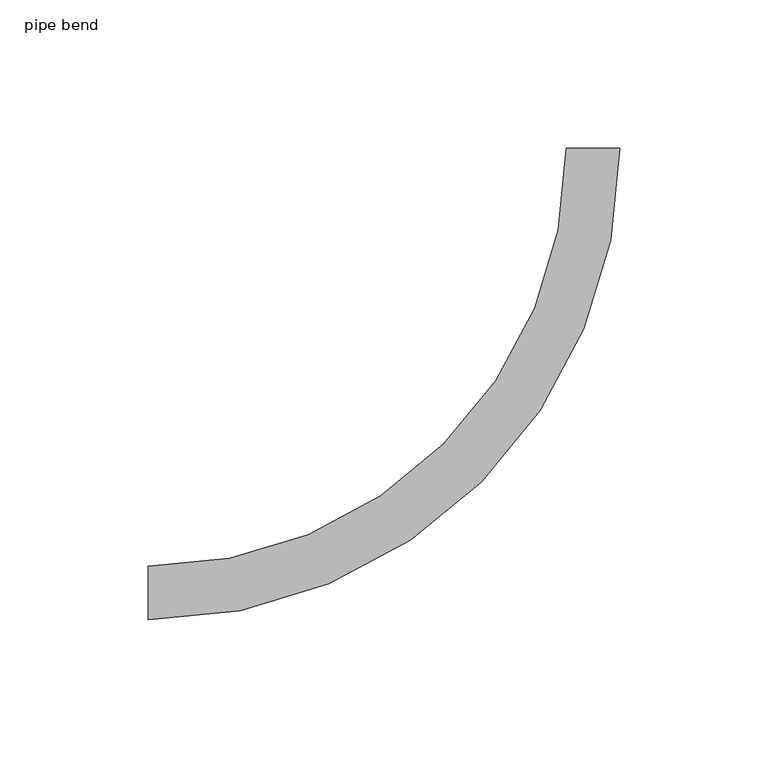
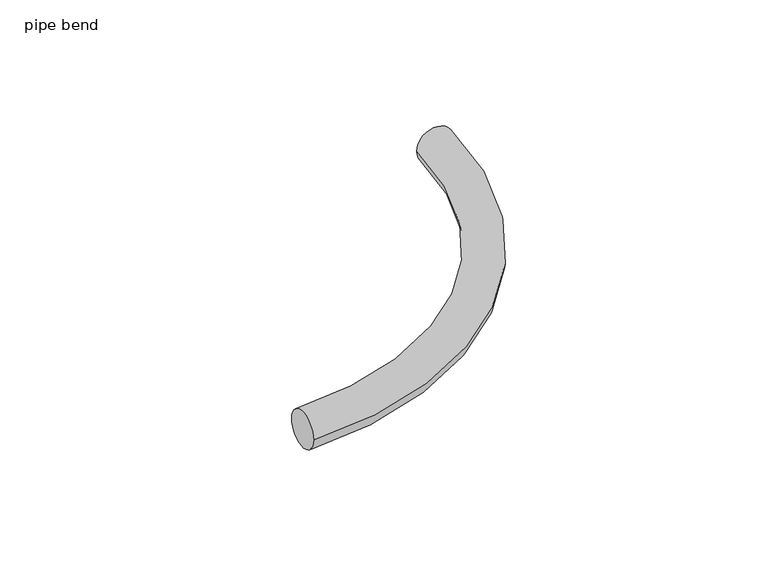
"""IFC4 building model written with IfcOpenShell, lengths in millimetres: pipe fitting geometry, pipe bend : PE-RT EVOH."""

from ifc_helpers import new_model, si_unit, point, frame, origin, place, context, project, spatial, circle_curve, ellipse_curve, trimmed, source, transform, mapped, element, save
from ifc_brep_helpers import plane_surface, revolved_surface, advanced_brep


def pipe_bend_8ffb1b83(model_context):
    return source(origin(), model_context, "Body", "AdvancedBrep", [
        advanced_brep(
        [(-150.0, -9.0, 0.0), (-150.0, 9.0, 0.0), (9.0, 150.0, 0.0), (-9.0, 150.0, 0.0)],
        [
            (0, 1, circle_curve(frame((-150.0, 0.0, 0.0), z_axis=(-1.0, 0.0, 0.0), x_axis=(0.0, 1.0, 0.0)), 9.0)),
            (1, 0, circle_curve(frame((-150.0, 0.0, 0.0), z_axis=(-1.0, 0.0, 0.0), x_axis=(0.0, 1.0, 0.0)), 9.0)),
            (2, 3, circle_curve(frame((0.0, 150.0, 0.0), z_axis=(0.0, 1.0, 0.0), x_axis=(-1.0, 0.0, 0.0)), 9.0)),
            (3, 2, circle_curve(frame((0.0, 150.0, 0.0), z_axis=(0.0, 1.0, 0.0), x_axis=(-1.0, 0.0, 0.0)), 9.0)),
            (3, 1, circle_curve(frame((-150.0, 150.0, 0.0), z_axis=(0.0, 0.0, -1.0), x_axis=(0.0, -1.0, 0.0)), 141.0)),
            (0, 2, circle_curve(frame((-150.0, 150.0, 0.0), z_axis=(0.0, 0.0, 1.0), x_axis=(0.0, -1.0, 0.0)), 159.0)),
        ],
        [
            plane_surface(frame((-150.0, 0.0, 0.0), z_axis=(-1.0, 0.0, 0.0), x_axis=(0.0, 0.0, 1.0))),
            plane_surface(frame((0.0, 150.0, 0.0), z_axis=(0.0, 1.0, 0.0), x_axis=(0.0, 0.0, 1.0))),
            revolved_surface(trimmed(ellipse_curve(frame((-150.0, 0.0, 0.0), z_axis=(-1.0, 0.0, 0.0), x_axis=(0.0, 1.0, 0.0)), 9.0, 9.0), [point((-150.0, -9.0, 0.0))], [point((-150.0, 9.0, 0.0))], True, "CARTESIAN"), (-150.0, 150.0, 0.0), (0.0, 0.0, 1.0)),
            revolved_surface(trimmed(ellipse_curve(frame((-150.0, 0.0, 0.0), z_axis=(-1.0, 0.0, 0.0), x_axis=(0.0, 1.0, 0.0)), 9.0, 9.0), [point((-150.0, 9.0, 0.0))], [point((-150.0, -9.0, 0.0))], True, "CARTESIAN"), (-150.0, 150.0, 0.0), (0.0, 0.0, 1.0)),
        ],
        [
            (0, [[1, 2]]),
            (1, [[3, 4]]),
            (2, [[5, -1, 6, -4]]),
            (3, [[-6, -2, -5, -3]]),
        ],
    ),
    ])


if __name__ == "__main__":
    model = new_model("IFC4")
    model_context = context("Model", 3, world=origin())
    ifc_project = project(units=[si_unit("LENGTHUNIT", "METRE", prefix="MILLI")], contexts=[model_context])
    site = spatial("IfcSite", under=ifc_project)
    building = spatial("IfcBuilding", under=site)
    placement = place(None, origin())
    pipe_bend_shape = pipe_bend_8ffb1b83(model_context)
    element("IfcPipeFitting", 1, ObjectType="pipe bend : PE-RT EVOH", at=placement, inside=building, context=model_context, shape_type="MappedRepresentation", body=[
        mapped(pipe_bend_shape, transform((0.0, 0.0, 0.0), x_axis=(1.0, 0.0, 0.0), y_axis=(0.0, 1.0, 0.0), z_axis=(0.0, 0.0, 1.0))),
    ])
    save(model, "model.ifc")
